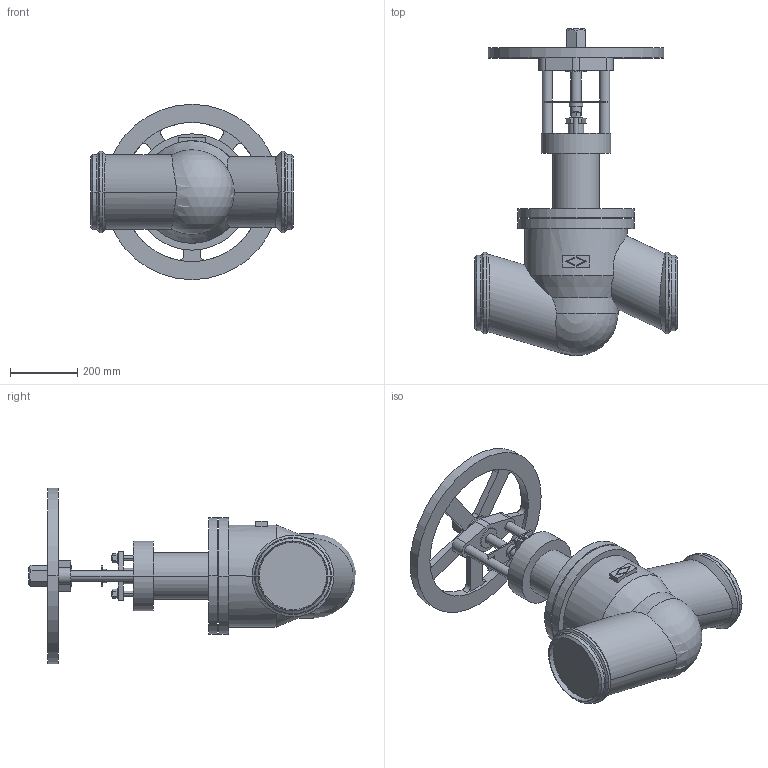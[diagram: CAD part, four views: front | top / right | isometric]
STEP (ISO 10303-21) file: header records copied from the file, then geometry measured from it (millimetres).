
FILE_DESCRIPTION(('Creo Elements/Direct Modeling STEP Export'),'2;1');
FILE_NAME('c000005024.stp','2012-09-20T10:11:47',(''),(''),'Creo Elements/Direct Modeling STEP processor for AP203 (Solid Model)','Creo Elements/Direct Modeling 17.0D 15-Jul-2011 (C) Parametric Technology GmbH','');
FILE_SCHEMA(('CONFIG_CONTROL_DESIGN'));
Length unit declared in the file: millimetre
Products named in the file (1): 1
Bounding box: 600 x 970.63 x 520 mm (x, y, z)
Volume: 48239935.7 mm3; surface area: 1533491.5 mm2
Topology: 1 solids, 1 shells, 226 faces, 579 edges, 376 vertices
Faces by surface type: plane 112, cylinder 89, cone 20, torus 4, sphere 1
Entity records: 7165 total; most frequent: CARTESIAN_POINT 1693, ORIENTED_EDGE 1154, DIRECTION 1086, EDGE_CURVE 577, AXIS2_PLACEMENT_3D 379, VERTEX_POINT 376, VECTOR 328, LINE 328
